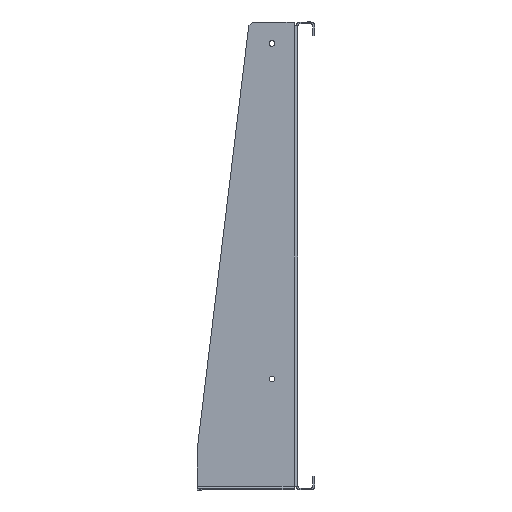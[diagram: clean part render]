
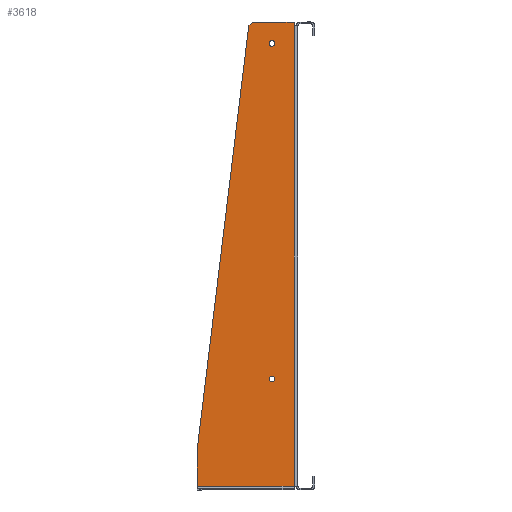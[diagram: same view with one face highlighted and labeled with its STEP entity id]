
A CAD part, left-side view. The second image highlights one B-rep face of the part: STEP entity #3618.
In plain terms, the highlighted planar face has unit normal (-1, 0, 0).
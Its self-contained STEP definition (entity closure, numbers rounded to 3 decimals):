
#73 = EDGE_CURVE ( 'NONE', #7011, #7013, #2583, .T. ) ;
#77 = EDGE_CURVE ( 'NONE', #7016, #7017, #2585, .T. ) ;
#1205 = AXIS2_PLACEMENT_3D ( 'NONE', #10719, #10718, #10717 ) ;
#1214 = AXIS2_PLACEMENT_3D ( 'NONE', #10731, #10730, #10729 ) ;
#1470 = CARTESIAN_POINT ( 'NONE',  ( -221., 19.5, -89.9 ) ) ;
#1472 = CARTESIAN_POINT ( 'NONE',  ( -221., 19.5, -94.1 ) ) ;
#1475 = CARTESIAN_POINT ( 'NONE',  ( -221., 19.5, 161.1 ) ) ;
#1478 = CARTESIAN_POINT ( 'NONE',  ( -221., 19.5, 156.9 ) ) ;
#2339 = CIRCLE ( 'NONE', #6034, 2.1 ) ;
#2357 = CIRCLE ( 'NONE', #6126, 2.1 ) ;
#2583 = CIRCLE ( 'NONE', #1214, 2.1 ) ;
#2585 = CIRCLE ( 'NONE', #1205, 2.1 ) ;
#3282 = EDGE_CURVE ( 'NONE', #13105, #13110, #8231, .T. ) ;
#3333 = EDGE_CURVE ( 'NONE', #13116, #13112, #8078, .T. ) ;
#3377 = EDGE_CURVE ( 'NONE', #7013, #7011, #2357, .T. ) ;
#3407 = EDGE_CURVE ( 'NONE', #7017, #7016, #2339, .T. ) ;
#3415 = EDGE_CURVE ( 'NONE', #13129, #13106, #7832, .T. ) ;
#3432 = EDGE_CURVE ( 'NONE', #13105, #13106, #7781, .T. ) ;
#3459 = EDGE_CURVE ( 'NONE', #13124, #13116, #6533, .T. ) ;
#3462 = EDGE_CURVE ( 'NONE', #13112, #13110, #6522, .T. ) ;
#3478 = EDGE_CURVE ( 'NONE', #13124, #13129, #6466, .T. ) ;
#3618 = ADVANCED_FACE ( 'NONE', ( #4854, #4859, #4861 ), #5780, .T. ) ;
#4210 = VECTOR ( 'NONE', #6463, 1000. ) ;
#4854 = FACE_BOUND ( 'NONE', #7599, .T. ) ;
#4859 = FACE_BOUND ( 'NONE', #7601, .T. ) ;
#4861 = FACE_OUTER_BOUND ( 'NONE', #7607, .T. ) ;
#4863 = AXIS2_PLACEMENT_3D ( 'NONE', #5779, #5778, #5777 ) ;
#5777 = DIRECTION ( 'NONE',  ( 0., -1., 0. ) ) ;
#5778 = DIRECTION ( 'NONE',  ( -1., 0., 0. ) ) ;
#5779 = CARTESIAN_POINT ( 'NONE',  ( -221., 1.4, 175. ) ) ;
#5780 = PLANE ( 'NONE',  #4863 ) ;
#5815 = VECTOR ( 'NONE', #6520, 1000. ) ;
#5826 = VECTOR ( 'NONE', #6531, 1000. ) ;
#5882 = VECTOR ( 'NONE', #8229, 1000. ) ;
#5913 = VECTOR ( 'NONE', #7779, 1000. ) ;
#5979 = VECTOR ( 'NONE', #7830, 1000. ) ;
#6034 = AXIS2_PLACEMENT_3D ( 'NONE', #7857, #7856, #7855 ) ;
#6126 = AXIS2_PLACEMENT_3D ( 'NONE', #7959, #7946, #7945 ) ;
#6263 = VECTOR ( 'NONE', #8076, 1000. ) ;
#6463 = DIRECTION ( 'NONE',  ( 0., 0., 1. ) ) ;
#6464 = CARTESIAN_POINT ( 'NONE',  ( -221., 2.9, 175. ) ) ;
#6466 = LINE ( 'NONE', #6464, #4210 ) ;
#6520 = DIRECTION ( 'NONE',  ( 0., -0.121, 0.993 ) ) ;
#6521 = CARTESIAN_POINT ( 'NONE',  ( -221., 75.4, -145. ) ) ;
#6522 = LINE ( 'NONE', #6521, #5815 ) ;
#6531 = DIRECTION ( 'NONE',  ( 0., 1., 0. ) ) ;
#6532 = CARTESIAN_POINT ( 'NONE',  ( -221., 2.9, -172.1 ) ) ;
#6533 = LINE ( 'NONE', #6532, #5826 ) ;
#6695 = ORIENTED_EDGE ( 'NONE', *, *, #3478, .T. ) ;
#6708 = ORIENTED_EDGE ( 'NONE', *, *, #3333, .F. ) ;
#6754 = ORIENTED_EDGE ( 'NONE', *, *, #3377, .F. ) ;
#6810 = ORIENTED_EDGE ( 'NONE', *, *, #3415, .T. ) ;
#6862 = ORIENTED_EDGE ( 'NONE', *, *, #3432, .F. ) ;
#6866 = ORIENTED_EDGE ( 'NONE', *, *, #3407, .F. ) ;
#6944 = ORIENTED_EDGE ( 'NONE', *, *, #77, .F. ) ;
#7011 = VERTEX_POINT ( 'NONE', #1478 ) ;
#7013 = VERTEX_POINT ( 'NONE', #1475 ) ;
#7016 = VERTEX_POINT ( 'NONE', #1472 ) ;
#7017 = VERTEX_POINT ( 'NONE', #1470 ) ;
#7599 = EDGE_LOOP ( 'NONE', ( #12933, #6754 ) ) ;
#7601 = EDGE_LOOP ( 'NONE', ( #6944, #6866 ) ) ;
#7607 = EDGE_LOOP ( 'NONE', ( #6862, #12811, #12827, #6708, #12806, #6695, #6810 ) ) ;
#7779 = DIRECTION ( 'NONE',  ( 0., -1., 0. ) ) ;
#7780 = CARTESIAN_POINT ( 'NONE',  ( -221., 1.4, 175. ) ) ;
#7781 = LINE ( 'NONE', #7780, #5913 ) ;
#7830 = DIRECTION ( 'NONE',  ( 0., 0., 1. ) ) ;
#7831 = CARTESIAN_POINT ( 'NONE',  ( -221., 2.9, 175. ) ) ;
#7832 = LINE ( 'NONE', #7831, #5979 ) ;
#7855 = DIRECTION ( 'NONE',  ( 0., -1., 0. ) ) ;
#7856 = DIRECTION ( 'NONE',  ( -1., 0., 0. ) ) ;
#7857 = CARTESIAN_POINT ( 'NONE',  ( -221., 19.5, -92. ) ) ;
#7945 = DIRECTION ( 'NONE',  ( 0., -1., 0. ) ) ;
#7946 = DIRECTION ( 'NONE',  ( -1., 0., 0. ) ) ;
#7959 = CARTESIAN_POINT ( 'NONE',  ( -221., 19.5, 159. ) ) ;
#8076 = DIRECTION ( 'NONE',  ( 0., 0., 1. ) ) ;
#8077 = CARTESIAN_POINT ( 'NONE',  ( -221., 75.4, 175. ) ) ;
#8078 = LINE ( 'NONE', #8077, #6263 ) ;
#8229 = DIRECTION ( 'NONE',  ( 0., 0.749, -0.663 ) ) ;
#8230 = CARTESIAN_POINT ( 'NONE',  ( -221., 15.733, 191.181 ) ) ;
#8231 = LINE ( 'NONE', #8230, #5882 ) ;
#10717 = DIRECTION ( 'NONE',  ( 0., -1., 0. ) ) ;
#10718 = DIRECTION ( 'NONE',  ( -1., 0., 0. ) ) ;
#10719 = CARTESIAN_POINT ( 'NONE',  ( -221., 19.5, -92. ) ) ;
#10729 = DIRECTION ( 'NONE',  ( 0., -1., 0. ) ) ;
#10730 = DIRECTION ( 'NONE',  ( -1., 0., 0. ) ) ;
#10731 = CARTESIAN_POINT ( 'NONE',  ( -221., 19.5, 159. ) ) ;
#11371 = CARTESIAN_POINT ( 'NONE',  ( -221., 2.9, 172.1 ) ) ;
#11374 = CARTESIAN_POINT ( 'NONE',  ( -221., 2.9, -172.1 ) ) ;
#11377 = CARTESIAN_POINT ( 'NONE',  ( -221., 75.4, -172.1 ) ) ;
#11379 = CARTESIAN_POINT ( 'NONE',  ( -221., 75.4, -145. ) ) ;
#11381 = CARTESIAN_POINT ( 'NONE',  ( -221., 36.802, 172.518 ) ) ;
#11383 = CARTESIAN_POINT ( 'NONE',  ( -221., 2.9, 175. ) ) ;
#11384 = CARTESIAN_POINT ( 'NONE',  ( -221., 34., 175. ) ) ;
#12806 = ORIENTED_EDGE ( 'NONE', *, *, #3459, .F. ) ;
#12811 = ORIENTED_EDGE ( 'NONE', *, *, #3282, .T. ) ;
#12827 = ORIENTED_EDGE ( 'NONE', *, *, #3462, .F. ) ;
#12933 = ORIENTED_EDGE ( 'NONE', *, *, #73, .F. ) ;
#13105 = VERTEX_POINT ( 'NONE', #11384 ) ;
#13106 = VERTEX_POINT ( 'NONE', #11383 ) ;
#13110 = VERTEX_POINT ( 'NONE', #11381 ) ;
#13112 = VERTEX_POINT ( 'NONE', #11379 ) ;
#13116 = VERTEX_POINT ( 'NONE', #11377 ) ;
#13124 = VERTEX_POINT ( 'NONE', #11374 ) ;
#13129 = VERTEX_POINT ( 'NONE', #11371 ) ;
